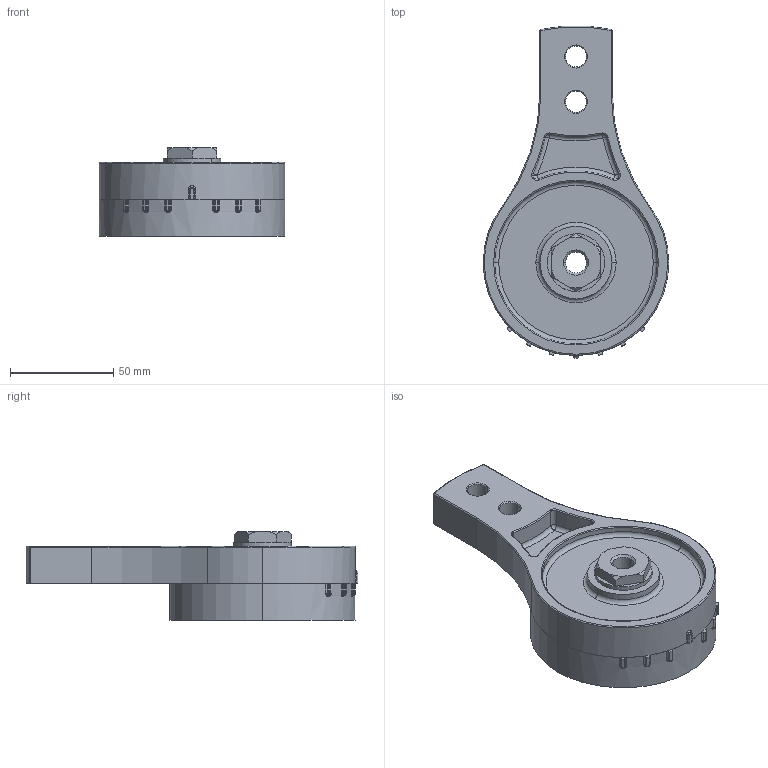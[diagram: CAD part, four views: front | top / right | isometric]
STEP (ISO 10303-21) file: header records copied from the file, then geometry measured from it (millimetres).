
FILE_DESCRIPTION (( 'STEP AP203' ), '1' );
FILE_NAME ('T2 12 cod.94030212N.STEP', '2017-08-21T14:32:16', ( '' ), ( '' ), 'SwSTEP 2.0', 'SolidWorks 2016', '' );
FILE_SCHEMA (( 'CONFIG_CONTROL_DESIGN' ));
Length unit declared in the file: millimetre
Products named in the file (5): T2 Esagono di montaggio; T2 Base 2017_step; T2 12 cod.94030212N; T2 Leva 12_Step; Boccola BZ 20X25X28X2X14
Assembly tree (4 placements, depth 2):
  T2 12 cod.94030212N
    T2 Base 2017_step
    T2 Leva 12_Step
    Boccola BZ 20X25X28X2X14
    T2 Esagono di montaggio
Bounding box: 90 x 161.07 x 43.15 mm (x, y, z)
Volume: 247223.1 mm3; surface area: 56536.7 mm2
Topology: 4 solids, 4 shells, 207 faces, 488 edges, 296 vertices
Faces by surface type: cylinder 93, plane 48, torus 31, cone 16, bspline 12, sphere 7
Entity records: 7321 total; most frequent: CARTESIAN_POINT 1992, DIRECTION 1098, ORIENTED_EDGE 960, EDGE_CURVE 480, AXIS2_PLACEMENT_3D 462, VERTEX_POINT 292, CIRCLE 260, EDGE_LOOP 230
